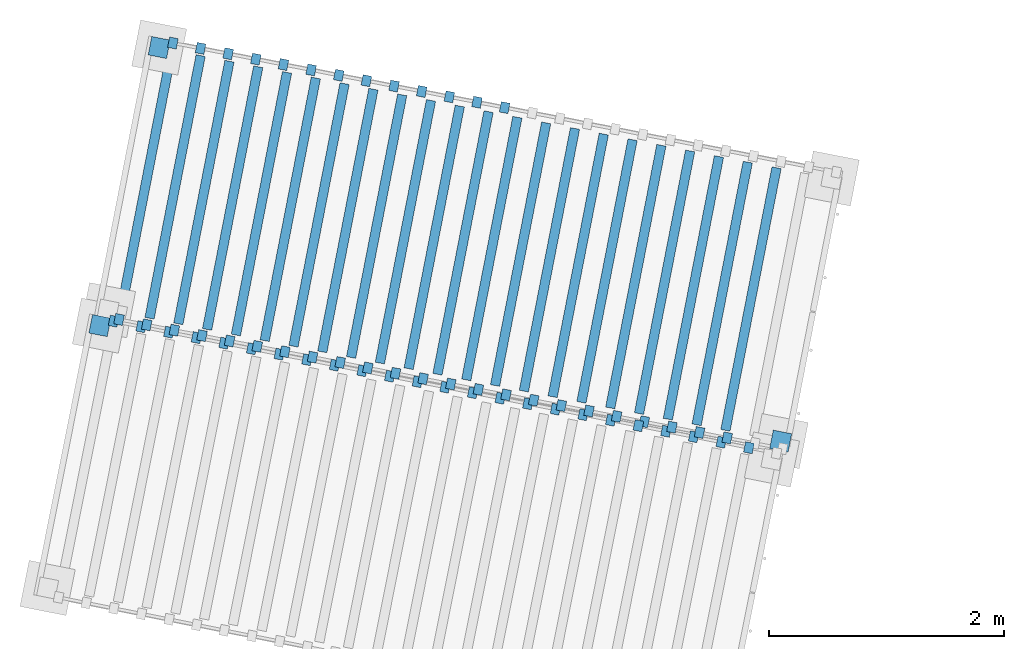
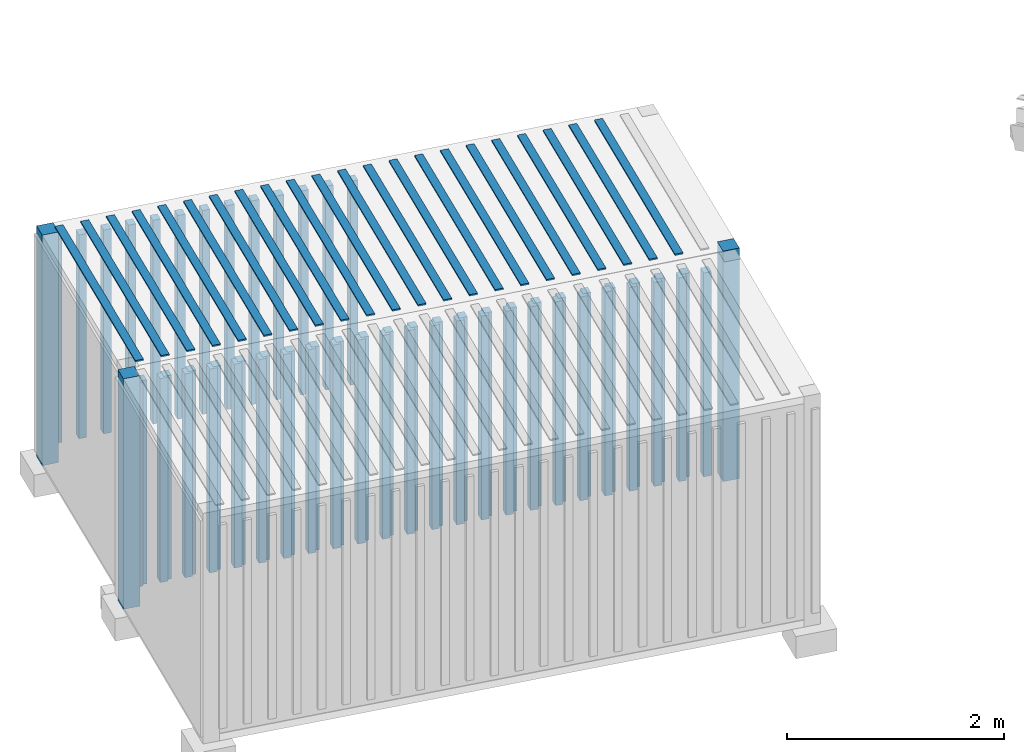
# One storey, part 82 of 131: 85 members, 2 elements without a shape of their own.
"""IFC4 building model written with IfcOpenShell, lengths in metres."""

from ifc_helpers import new_model, si_unit, direction, frame, origin_with_axes, place, context, subcontext, project, spatial, polyline, outline, extrude, material, element, aggregate, save


model = new_model("IFC4")

# Units and contexts
model_context = context("Model", 3, precision=1e-05, world=origin_with_axes(), true_north=direction((0.0, 1.0)))
body_context = subcontext(model_context, "Body", "Model", "MODEL_VIEW")
ifc_project = project(units=[si_unit("VOLUMEUNIT", "CUBIC_METRE"), si_unit("LENGTHUNIT", "METRE"), si_unit("AREAUNIT", "SQUARE_METRE")], contexts=[model_context])

# Site, building, storey
site_placement = place(None, origin_with_axes())
site = spatial("IfcSite", under=ifc_project, at=site_placement, Name="Lares · Rua das Mercês · artigo 4771")
building_placement = place(site_placement, frame((15.0, 9.7, 14.65), z_axis=(0.0, 0.0, 1.0), x_axis=(0.989015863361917, -0.147809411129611, 0.0)))
building = spatial("IfcBuilding", under=site, at=building_placement, Name="Casa Sobreposta")
storey_placement = place(building_placement, origin_with_axes())
storey = spatial("IfcBuildingStorey", under=building, at=storey_placement, Name="00 · Habitação e estacionamento", Elevation=14.65)

# Assembly, members
assembly_1_placement = place(storey_placement, frame((-14.4335953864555, 9.04888612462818, 0.0), z_axis=(0.0, 0.0, 1.0), x_axis=(0.999032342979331, -0.0439815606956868, 0.0)))
assembly_1 = element("IfcElementAssembly", 1, at=assembly_1_placement, inside=storey, Name="Contentor existente 1 · 6 m", ObjectType="EXISTING_SHIPPING_CONTAINER", PredefinedType="USERDEFINED")
ifc_material_1 = material(Name="Contentor · pintura 1", Category="steel")
member_1_placement = place(assembly_1_placement, frame((0.0, 0.0, -1.3), z_axis=(0.0, 0.0, 1.0), x_axis=(1.0, 0.0, 0.0)))
member_1 = element("IfcMember", 2, at=member_1_placement, material=ifc_material_1, Name="Contentor · canto", context=body_context, shape_type="SweptSolid", body=[
    extrude(outline(polyline([(0.16, 2.28), (0.16, 2.44), (0.0, 2.44), (0.0, 2.28), (0.16, 2.28)])), origin_with_axes(), (0.0, 0.0, 1.0), 2.59),
])
member_2_placement = place(assembly_1_placement, frame((0.0, 0.0, -1.3), z_axis=(0.0, 0.0, 1.0), x_axis=(1.0, 0.0, 0.0)))
member_2 = element("IfcMember", 3, at=member_2_placement, material=ifc_material_1, Name="Contentor · canto", context=body_context, shape_type="SweptSolid", body=[
    extrude(outline(polyline([(6.0, 0.0), (6.0, 0.16), (5.84, 0.16), (5.84, 0.0), (6.0, 0.0)])), origin_with_axes(), (0.0, 0.0, 1.0), 2.59),
])
member_3_placement = place(assembly_1_placement, frame((0.0, 0.0, -1.15), z_axis=(0.0, 0.0, 1.0), x_axis=(1.0, 0.0, 0.0)))
member_3 = element("IfcMember", 4, at=member_3_placement, material=ifc_material_1, Name="Contentor · nervura lateral", context=body_context, shape_type="SweptSolid", body=[
    extrude(outline(polyline([(0.225, -0.025), (0.225, 0.065), (0.15, 0.065), (0.15, -0.025), (0.225, -0.025)])), origin_with_axes(), (0.0, 0.0, 1.0), 2.29),
])
member_4_placement = place(assembly_1_placement, frame((0.0, 0.0, -1.15), z_axis=(0.0, 0.0, 1.0), x_axis=(1.0, 0.0, 0.0)))
member_4 = element("IfcMember", 5, at=member_4_placement, material=ifc_material_1, Name="Contentor · nervura lateral", context=body_context, shape_type="SweptSolid", body=[
    extrude(outline(polyline([(0.465, -0.025), (0.465, 0.065), (0.39, 0.065), (0.39, -0.025), (0.465, -0.025)])), origin_with_axes(), (0.0, 0.0, 1.0), 2.29),
])
member_5_placement = place(assembly_1_placement, frame((0.0, 0.0, -1.15), z_axis=(0.0, 0.0, 1.0), x_axis=(1.0, 0.0, 0.0)))
member_5 = element("IfcMember", 6, at=member_5_placement, material=ifc_material_1, Name="Contentor · nervura lateral", context=body_context, shape_type="SweptSolid", body=[
    extrude(outline(polyline([(0.705, -0.025), (0.705, 0.065), (0.63, 0.065), (0.63, -0.025), (0.705, -0.025)])), origin_with_axes(), (0.0, 0.0, 1.0), 2.29),
])
member_6_placement = place(assembly_1_placement, frame((0.0, 0.0, -1.15), z_axis=(0.0, 0.0, 1.0), x_axis=(1.0, 0.0, 0.0)))
member_6 = element("IfcMember", 7, at=member_6_placement, material=ifc_material_1, Name="Contentor · nervura lateral", context=body_context, shape_type="SweptSolid", body=[
    extrude(outline(polyline([(0.945, -0.025), (0.945, 0.065), (0.87, 0.065), (0.87, -0.025), (0.945, -0.025)])), origin_with_axes(), (0.0, 0.0, 1.0), 2.29),
])
member_7_placement = place(assembly_1_placement, frame((0.0, 0.0, -1.15), z_axis=(0.0, 0.0, 1.0), x_axis=(1.0, 0.0, 0.0)))
member_7 = element("IfcMember", 8, at=member_7_placement, material=ifc_material_1, Name="Contentor · nervura lateral", context=body_context, shape_type="SweptSolid", body=[
    extrude(outline(polyline([(1.185, -0.025), (1.185, 0.065), (1.11, 0.065), (1.11, -0.025), (1.185, -0.025)])), origin_with_axes(), (0.0, 0.0, 1.0), 2.29),
])
member_8_placement = place(assembly_1_placement, frame((0.0, 0.0, -1.15), z_axis=(0.0, 0.0, 1.0), x_axis=(1.0, 0.0, 0.0)))
member_8 = element("IfcMember", 9, at=member_8_placement, material=ifc_material_1, Name="Contentor · nervura lateral", context=body_context, shape_type="SweptSolid", body=[
    extrude(outline(polyline([(1.425, -0.025), (1.425, 0.065), (1.35, 0.065), (1.35, -0.025), (1.425, -0.025)])), origin_with_axes(), (0.0, 0.0, 1.0), 2.29),
])
member_9_placement = place(assembly_1_placement, frame((0.0, 0.0, -1.15), z_axis=(0.0, 0.0, 1.0), x_axis=(1.0, 0.0, 0.0)))
member_9 = element("IfcMember", 10, at=member_9_placement, material=ifc_material_1, Name="Contentor · nervura lateral", context=body_context, shape_type="SweptSolid", body=[
    extrude(outline(polyline([(1.665, -0.025), (1.665, 0.065), (1.59, 0.065), (1.59, -0.025), (1.665, -0.025)])), origin_with_axes(), (0.0, 0.0, 1.0), 2.29),
])
member_10_placement = place(assembly_1_placement, frame((0.0, 0.0, -1.15), z_axis=(0.0, 0.0, 1.0), x_axis=(1.0, 0.0, 0.0)))
member_10 = element("IfcMember", 11, at=member_10_placement, material=ifc_material_1, Name="Contentor · nervura lateral", context=body_context, shape_type="SweptSolid", body=[
    extrude(outline(polyline([(1.905, -0.025), (1.905, 0.065), (1.83, 0.065), (1.83, -0.025), (1.905, -0.025)])), origin_with_axes(), (0.0, 0.0, 1.0), 2.29),
])
member_11_placement = place(assembly_1_placement, frame((0.0, 0.0, -1.15), z_axis=(0.0, 0.0, 1.0), x_axis=(1.0, 0.0, 0.0)))
member_11 = element("IfcMember", 12, at=member_11_placement, material=ifc_material_1, Name="Contentor · nervura lateral", context=body_context, shape_type="SweptSolid", body=[
    extrude(outline(polyline([(2.145, -0.025), (2.145, 0.065), (2.07, 0.065), (2.07, -0.025), (2.145, -0.025)])), origin_with_axes(), (0.0, 0.0, 1.0), 2.29),
])
member_12_placement = place(assembly_1_placement, frame((0.0, 0.0, -1.15), z_axis=(0.0, 0.0, 1.0), x_axis=(1.0, 0.0, 0.0)))
member_12 = element("IfcMember", 13, at=member_12_placement, material=ifc_material_1, Name="Contentor · nervura lateral", context=body_context, shape_type="SweptSolid", body=[
    extrude(outline(polyline([(2.385, -0.025), (2.385, 0.065), (2.31, 0.065), (2.31, -0.025), (2.385, -0.025)])), origin_with_axes(), (0.0, 0.0, 1.0), 2.29),
])
member_13_placement = place(assembly_1_placement, frame((0.0, 0.0, -1.15), z_axis=(0.0, 0.0, 1.0), x_axis=(1.0, 0.0, 0.0)))
member_13 = element("IfcMember", 14, at=member_13_placement, material=ifc_material_1, Name="Contentor · nervura lateral", context=body_context, shape_type="SweptSolid", body=[
    extrude(outline(polyline([(2.625, -0.025), (2.625, 0.065), (2.55, 0.065), (2.55, -0.025), (2.625, -0.025)])), origin_with_axes(), (0.0, 0.0, 1.0), 2.29),
])
member_14_placement = place(assembly_1_placement, frame((0.0, 0.0, -1.15), z_axis=(0.0, 0.0, 1.0), x_axis=(1.0, 0.0, 0.0)))
member_14 = element("IfcMember", 15, at=member_14_placement, material=ifc_material_1, Name="Contentor · nervura lateral", context=body_context, shape_type="SweptSolid", body=[
    extrude(outline(polyline([(2.865, -0.025), (2.865, 0.065), (2.79, 0.065), (2.79, -0.025), (2.865, -0.025)])), origin_with_axes(), (0.0, 0.0, 1.0), 2.29),
])
member_15_placement = place(assembly_1_placement, frame((0.0, 0.0, -1.15), z_axis=(0.0, 0.0, 1.0), x_axis=(1.0, 0.0, 0.0)))
member_15 = element("IfcMember", 16, at=member_15_placement, material=ifc_material_1, Name="Contentor · nervura lateral", context=body_context, shape_type="SweptSolid", body=[
    extrude(outline(polyline([(3.105, -0.025), (3.105, 0.065), (3.03, 0.065), (3.03, -0.025), (3.105, -0.025)])), origin_with_axes(), (0.0, 0.0, 1.0), 2.29),
])
member_16_placement = place(assembly_1_placement, frame((0.0, 0.0, -1.15), z_axis=(0.0, 0.0, 1.0), x_axis=(1.0, 0.0, 0.0)))
member_16 = element("IfcMember", 17, at=member_16_placement, material=ifc_material_1, Name="Contentor · nervura lateral", context=body_context, shape_type="SweptSolid", body=[
    extrude(outline(polyline([(3.345, -0.025), (3.345, 0.065), (3.27, 0.065), (3.27, -0.025), (3.345, -0.025)])), origin_with_axes(), (0.0, 0.0, 1.0), 2.29),
])
member_17_placement = place(assembly_1_placement, frame((0.0, 0.0, -1.15), z_axis=(0.0, 0.0, 1.0), x_axis=(1.0, 0.0, 0.0)))
member_17 = element("IfcMember", 18, at=member_17_placement, material=ifc_material_1, Name="Contentor · nervura lateral", context=body_context, shape_type="SweptSolid", body=[
    extrude(outline(polyline([(3.585, -0.025), (3.585, 0.065), (3.51, 0.065), (3.51, -0.025), (3.585, -0.025)])), origin_with_axes(), (0.0, 0.0, 1.0), 2.29),
])
member_18_placement = place(assembly_1_placement, frame((0.0, 0.0, -1.15), z_axis=(0.0, 0.0, 1.0), x_axis=(1.0, 0.0, 0.0)))
member_18 = element("IfcMember", 19, at=member_18_placement, material=ifc_material_1, Name="Contentor · nervura lateral", context=body_context, shape_type="SweptSolid", body=[
    extrude(outline(polyline([(3.825, -0.025), (3.825, 0.065), (3.75, 0.065), (3.75, -0.025), (3.825, -0.025)])), origin_with_axes(), (0.0, 0.0, 1.0), 2.29),
])
member_19_placement = place(assembly_1_placement, frame((0.0, 0.0, -1.15), z_axis=(0.0, 0.0, 1.0), x_axis=(1.0, 0.0, 0.0)))
member_19 = element("IfcMember", 20, at=member_19_placement, material=ifc_material_1, Name="Contentor · nervura lateral", context=body_context, shape_type="SweptSolid", body=[
    extrude(outline(polyline([(4.065, -0.025), (4.065, 0.065), (3.99, 0.065), (3.99, -0.025), (4.065, -0.025)])), origin_with_axes(), (0.0, 0.0, 1.0), 2.29),
])
member_20_placement = place(assembly_1_placement, frame((0.0, 0.0, -1.15), z_axis=(0.0, 0.0, 1.0), x_axis=(1.0, 0.0, 0.0)))
member_20 = element("IfcMember", 21, at=member_20_placement, material=ifc_material_1, Name="Contentor · nervura lateral", context=body_context, shape_type="SweptSolid", body=[
    extrude(outline(polyline([(4.305, -0.025), (4.305, 0.065), (4.23, 0.065), (4.23, -0.025), (4.305, -0.025)])), origin_with_axes(), (0.0, 0.0, 1.0), 2.29),
])
member_21_placement = place(assembly_1_placement, frame((0.0, 0.0, -1.15), z_axis=(0.0, 0.0, 1.0), x_axis=(1.0, 0.0, 0.0)))
member_21 = element("IfcMember", 22, at=member_21_placement, material=ifc_material_1, Name="Contentor · nervura lateral", context=body_context, shape_type="SweptSolid", body=[
    extrude(outline(polyline([(4.545, -0.025), (4.545, 0.065), (4.47, 0.065), (4.47, -0.025), (4.545, -0.025)])), origin_with_axes(), (0.0, 0.0, 1.0), 2.29),
])
member_22_placement = place(assembly_1_placement, frame((0.0, 0.0, -1.15), z_axis=(0.0, 0.0, 1.0), x_axis=(1.0, 0.0, 0.0)))
member_22 = element("IfcMember", 23, at=member_22_placement, material=ifc_material_1, Name="Contentor · nervura lateral", context=body_context, shape_type="SweptSolid", body=[
    extrude(outline(polyline([(4.785, -0.025), (4.785, 0.065), (4.71, 0.065), (4.71, -0.025), (4.785, -0.025)])), origin_with_axes(), (0.0, 0.0, 1.0), 2.29),
])
member_23_placement = place(assembly_1_placement, frame((0.0, 0.0, -1.15), z_axis=(0.0, 0.0, 1.0), x_axis=(1.0, 0.0, 0.0)))
member_23 = element("IfcMember", 24, at=member_23_placement, material=ifc_material_1, Name="Contentor · nervura lateral", context=body_context, shape_type="SweptSolid", body=[
    extrude(outline(polyline([(5.025, -0.025), (5.025, 0.065), (4.95, 0.065), (4.95, -0.025), (5.025, -0.025)])), origin_with_axes(), (0.0, 0.0, 1.0), 2.29),
])
member_24_placement = place(assembly_1_placement, frame((0.0, 0.0, -1.15), z_axis=(0.0, 0.0, 1.0), x_axis=(1.0, 0.0, 0.0)))
member_24 = element("IfcMember", 25, at=member_24_placement, material=ifc_material_1, Name="Contentor · nervura lateral", context=body_context, shape_type="SweptSolid", body=[
    extrude(outline(polyline([(5.265, -0.025), (5.265, 0.065), (5.19, 0.065), (5.19, -0.025), (5.265, -0.025)])), origin_with_axes(), (0.0, 0.0, 1.0), 2.29),
])
member_25_placement = place(assembly_1_placement, frame((0.0, 0.0, -1.15), z_axis=(0.0, 0.0, 1.0), x_axis=(1.0, 0.0, 0.0)))
member_25 = element("IfcMember", 26, at=member_25_placement, material=ifc_material_1, Name="Contentor · nervura lateral", context=body_context, shape_type="SweptSolid", body=[
    extrude(outline(polyline([(5.505, -0.025), (5.505, 0.065), (5.43, 0.065), (5.43, -0.025), (5.505, -0.025)])), origin_with_axes(), (0.0, 0.0, 1.0), 2.29),
])
member_26_placement = place(assembly_1_placement, frame((0.0, 0.0, -1.15), z_axis=(0.0, 0.0, 1.0), x_axis=(1.0, 0.0, 0.0)))
member_26 = element("IfcMember", 27, at=member_26_placement, material=ifc_material_1, Name="Contentor · nervura lateral", context=body_context, shape_type="SweptSolid", body=[
    extrude(outline(polyline([(0.225, 2.375), (0.225, 2.465), (0.15, 2.465), (0.15, 2.375), (0.225, 2.375)])), origin_with_axes(), (0.0, 0.0, 1.0), 2.29),
])
member_27_placement = place(assembly_1_placement, frame((0.0, 0.0, -1.15), z_axis=(0.0, 0.0, 1.0), x_axis=(1.0, 0.0, 0.0)))
member_27 = element("IfcMember", 28, at=member_27_placement, material=ifc_material_1, Name="Contentor · nervura lateral", context=body_context, shape_type="SweptSolid", body=[
    extrude(outline(polyline([(0.465, 2.375), (0.465, 2.465), (0.39, 2.465), (0.39, 2.375), (0.465, 2.375)])), origin_with_axes(), (0.0, 0.0, 1.0), 2.29),
])
member_28_placement = place(assembly_1_placement, frame((0.0, 0.0, -1.15), z_axis=(0.0, 0.0, 1.0), x_axis=(1.0, 0.0, 0.0)))
member_28 = element("IfcMember", 29, at=member_28_placement, material=ifc_material_1, Name="Contentor · nervura lateral", context=body_context, shape_type="SweptSolid", body=[
    extrude(outline(polyline([(0.705, 2.375), (0.705, 2.465), (0.63, 2.465), (0.63, 2.375), (0.705, 2.375)])), origin_with_axes(), (0.0, 0.0, 1.0), 2.29),
])
member_29_placement = place(assembly_1_placement, frame((0.0, 0.0, -1.15), z_axis=(0.0, 0.0, 1.0), x_axis=(1.0, 0.0, 0.0)))
member_29 = element("IfcMember", 30, at=member_29_placement, material=ifc_material_1, Name="Contentor · nervura lateral", context=body_context, shape_type="SweptSolid", body=[
    extrude(outline(polyline([(0.945, 2.375), (0.945, 2.465), (0.87, 2.465), (0.87, 2.375), (0.945, 2.375)])), origin_with_axes(), (0.0, 0.0, 1.0), 2.29),
])
member_30_placement = place(assembly_1_placement, frame((0.0, 0.0, -1.15), z_axis=(0.0, 0.0, 1.0), x_axis=(1.0, 0.0, 0.0)))
member_30 = element("IfcMember", 31, at=member_30_placement, material=ifc_material_1, Name="Contentor · nervura lateral", context=body_context, shape_type="SweptSolid", body=[
    extrude(outline(polyline([(1.185, 2.375), (1.185, 2.465), (1.11, 2.465), (1.11, 2.375), (1.185, 2.375)])), origin_with_axes(), (0.0, 0.0, 1.0), 2.29),
])
member_31_placement = place(assembly_1_placement, frame((0.0, 0.0, -1.15), z_axis=(0.0, 0.0, 1.0), x_axis=(1.0, 0.0, 0.0)))
member_31 = element("IfcMember", 32, at=member_31_placement, material=ifc_material_1, Name="Contentor · nervura lateral", context=body_context, shape_type="SweptSolid", body=[
    extrude(outline(polyline([(1.425, 2.375), (1.425, 2.465), (1.35, 2.465), (1.35, 2.375), (1.425, 2.375)])), origin_with_axes(), (0.0, 0.0, 1.0), 2.29),
])
member_32_placement = place(assembly_1_placement, frame((0.0, 0.0, -1.15), z_axis=(0.0, 0.0, 1.0), x_axis=(1.0, 0.0, 0.0)))
member_32 = element("IfcMember", 33, at=member_32_placement, material=ifc_material_1, Name="Contentor · nervura lateral", context=body_context, shape_type="SweptSolid", body=[
    extrude(outline(polyline([(1.665, 2.375), (1.665, 2.465), (1.59, 2.465), (1.59, 2.375), (1.665, 2.375)])), origin_with_axes(), (0.0, 0.0, 1.0), 2.29),
])
member_33_placement = place(assembly_1_placement, frame((0.0, 0.0, -1.15), z_axis=(0.0, 0.0, 1.0), x_axis=(1.0, 0.0, 0.0)))
member_33 = element("IfcMember", 34, at=member_33_placement, material=ifc_material_1, Name="Contentor · nervura lateral", context=body_context, shape_type="SweptSolid", body=[
    extrude(outline(polyline([(1.905, 2.375), (1.905, 2.465), (1.83, 2.465), (1.83, 2.375), (1.905, 2.375)])), origin_with_axes(), (0.0, 0.0, 1.0), 2.29),
])
member_34_placement = place(assembly_1_placement, frame((0.0, 0.0, -1.15), z_axis=(0.0, 0.0, 1.0), x_axis=(1.0, 0.0, 0.0)))
member_34 = element("IfcMember", 35, at=member_34_placement, material=ifc_material_1, Name="Contentor · nervura lateral", context=body_context, shape_type="SweptSolid", body=[
    extrude(outline(polyline([(2.145, 2.375), (2.145, 2.465), (2.07, 2.465), (2.07, 2.375), (2.145, 2.375)])), origin_with_axes(), (0.0, 0.0, 1.0), 2.29),
])
member_35_placement = place(assembly_1_placement, frame((0.0, 0.0, -1.15), z_axis=(0.0, 0.0, 1.0), x_axis=(1.0, 0.0, 0.0)))
member_35 = element("IfcMember", 36, at=member_35_placement, material=ifc_material_1, Name="Contentor · nervura lateral", context=body_context, shape_type="SweptSolid", body=[
    extrude(outline(polyline([(2.385, 2.375), (2.385, 2.465), (2.31, 2.465), (2.31, 2.375), (2.385, 2.375)])), origin_with_axes(), (0.0, 0.0, 1.0), 2.29),
])
member_36_placement = place(assembly_1_placement, frame((0.0, 0.0, -1.15), z_axis=(0.0, 0.0, 1.0), x_axis=(1.0, 0.0, 0.0)))
member_36 = element("IfcMember", 37, at=member_36_placement, material=ifc_material_1, Name="Contentor · nervura lateral", context=body_context, shape_type="SweptSolid", body=[
    extrude(outline(polyline([(2.625, 2.375), (2.625, 2.465), (2.55, 2.465), (2.55, 2.375), (2.625, 2.375)])), origin_with_axes(), (0.0, 0.0, 1.0), 2.29),
])
member_37_placement = place(assembly_1_placement, frame((0.0, 0.0, -1.15), z_axis=(0.0, 0.0, 1.0), x_axis=(1.0, 0.0, 0.0)))
member_37 = element("IfcMember", 38, at=member_37_placement, material=ifc_material_1, Name="Contentor · nervura lateral", context=body_context, shape_type="SweptSolid", body=[
    extrude(outline(polyline([(2.865, 2.375), (2.865, 2.465), (2.79, 2.465), (2.79, 2.375), (2.865, 2.375)])), origin_with_axes(), (0.0, 0.0, 1.0), 2.29),
])
member_38_placement = place(assembly_1_placement, frame((0.0, 0.0, -1.15), z_axis=(0.0, 0.0, 1.0), x_axis=(1.0, 0.0, 0.0)))
member_38 = element("IfcMember", 39, at=member_38_placement, material=ifc_material_1, Name="Contentor · nervura lateral", context=body_context, shape_type="SweptSolid", body=[
    extrude(outline(polyline([(3.105, 2.375), (3.105, 2.465), (3.03, 2.465), (3.03, 2.375), (3.105, 2.375)])), origin_with_axes(), (0.0, 0.0, 1.0), 2.29),
])
member_39_placement = place(assembly_1_placement, frame((0.0, 0.0, 1.285), z_axis=(0.0, 0.0, 1.0), x_axis=(1.0, 0.0, 0.0)))
member_39 = element("IfcMember", 40, at=member_39_placement, material=ifc_material_1, Name="Contentor · nervura cobertura", context=body_context, shape_type="SweptSolid", body=[
    extrude(outline(polyline([(0.23, 0.08), (0.23, 2.36), (0.15, 2.36), (0.15, 0.08), (0.23, 0.08)])), origin_with_axes(), (0.0, 0.0, 1.0), 0.018),
])
member_40_placement = place(assembly_1_placement, frame((0.0, 0.0, 1.285), z_axis=(0.0, 0.0, 1.0), x_axis=(1.0, 0.0, 0.0)))
member_40 = element("IfcMember", 41, at=member_40_placement, material=ifc_material_1, Name="Contentor · nervura cobertura", context=body_context, shape_type="SweptSolid", body=[
    extrude(outline(polyline([(0.48, 0.08), (0.48, 2.36), (0.4, 2.36), (0.4, 0.08), (0.48, 0.08)])), origin_with_axes(), (0.0, 0.0, 1.0), 0.018),
])
member_41_placement = place(assembly_1_placement, frame((0.0, 0.0, 1.285), z_axis=(0.0, 0.0, 1.0), x_axis=(1.0, 0.0, 0.0)))
member_41 = element("IfcMember", 42, at=member_41_placement, material=ifc_material_1, Name="Contentor · nervura cobertura", context=body_context, shape_type="SweptSolid", body=[
    extrude(outline(polyline([(0.73, 0.08), (0.73, 2.36), (0.65, 2.36), (0.65, 0.08), (0.73, 0.08)])), origin_with_axes(), (0.0, 0.0, 1.0), 0.018),
])
member_42_placement = place(assembly_1_placement, frame((0.0, 0.0, 1.285), z_axis=(0.0, 0.0, 1.0), x_axis=(1.0, 0.0, 0.0)))
member_42 = element("IfcMember", 43, at=member_42_placement, material=ifc_material_1, Name="Contentor · nervura cobertura", context=body_context, shape_type="SweptSolid", body=[
    extrude(outline(polyline([(0.98, 0.08), (0.98, 2.36), (0.9, 2.36), (0.9, 0.08), (0.98, 0.08)])), origin_with_axes(), (0.0, 0.0, 1.0), 0.018),
])
member_43_placement = place(assembly_1_placement, frame((0.0, 0.0, 1.285), z_axis=(0.0, 0.0, 1.0), x_axis=(1.0, 0.0, 0.0)))
member_43 = element("IfcMember", 44, at=member_43_placement, material=ifc_material_1, Name="Contentor · nervura cobertura", context=body_context, shape_type="SweptSolid", body=[
    extrude(outline(polyline([(1.23, 0.08), (1.23, 2.36), (1.15, 2.36), (1.15, 0.08), (1.23, 0.08)])), origin_with_axes(), (0.0, 0.0, 1.0), 0.018),
])
member_44_placement = place(assembly_1_placement, frame((0.0, 0.0, 1.285), z_axis=(0.0, 0.0, 1.0), x_axis=(1.0, 0.0, 0.0)))
member_44 = element("IfcMember", 45, at=member_44_placement, material=ifc_material_1, Name="Contentor · nervura cobertura", context=body_context, shape_type="SweptSolid", body=[
    extrude(outline(polyline([(1.48, 0.08), (1.48, 2.36), (1.4, 2.36), (1.4, 0.08), (1.48, 0.08)])), origin_with_axes(), (0.0, 0.0, 1.0), 0.018),
])
member_45_placement = place(assembly_1_placement, frame((0.0, 0.0, 1.285), z_axis=(0.0, 0.0, 1.0), x_axis=(1.0, 0.0, 0.0)))
member_45 = element("IfcMember", 46, at=member_45_placement, material=ifc_material_1, Name="Contentor · nervura cobertura", context=body_context, shape_type="SweptSolid", body=[
    extrude(outline(polyline([(1.73, 0.08), (1.73, 2.36), (1.65, 2.36), (1.65, 0.08), (1.73, 0.08)])), origin_with_axes(), (0.0, 0.0, 1.0), 0.018),
])
member_46_placement = place(assembly_1_placement, frame((0.0, 0.0, 1.285), z_axis=(0.0, 0.0, 1.0), x_axis=(1.0, 0.0, 0.0)))
member_46 = element("IfcMember", 47, at=member_46_placement, material=ifc_material_1, Name="Contentor · nervura cobertura", context=body_context, shape_type="SweptSolid", body=[
    extrude(outline(polyline([(1.98, 0.08), (1.98, 2.36), (1.9, 2.36), (1.9, 0.08), (1.98, 0.08)])), origin_with_axes(), (0.0, 0.0, 1.0), 0.018),
])
member_47_placement = place(assembly_1_placement, frame((0.0, 0.0, 1.285), z_axis=(0.0, 0.0, 1.0), x_axis=(1.0, 0.0, 0.0)))
member_47 = element("IfcMember", 48, at=member_47_placement, material=ifc_material_1, Name="Contentor · nervura cobertura", context=body_context, shape_type="SweptSolid", body=[
    extrude(outline(polyline([(2.23, 0.08), (2.23, 2.36), (2.15, 2.36), (2.15, 0.08), (2.23, 0.08)])), origin_with_axes(), (0.0, 0.0, 1.0), 0.018),
])
member_48_placement = place(assembly_1_placement, frame((0.0, 0.0, 1.285), z_axis=(0.0, 0.0, 1.0), x_axis=(1.0, 0.0, 0.0)))
member_48 = element("IfcMember", 49, at=member_48_placement, material=ifc_material_1, Name="Contentor · nervura cobertura", context=body_context, shape_type="SweptSolid", body=[
    extrude(outline(polyline([(2.48, 0.08), (2.48, 2.36), (2.4, 2.36), (2.4, 0.08), (2.48, 0.08)])), origin_with_axes(), (0.0, 0.0, 1.0), 0.018),
])
member_49_placement = place(assembly_1_placement, frame((0.0, 0.0, 1.285), z_axis=(0.0, 0.0, 1.0), x_axis=(1.0, 0.0, 0.0)))
member_49 = element("IfcMember", 50, at=member_49_placement, material=ifc_material_1, Name="Contentor · nervura cobertura", context=body_context, shape_type="SweptSolid", body=[
    extrude(outline(polyline([(2.73, 0.08), (2.73, 2.36), (2.65, 2.36), (2.65, 0.08), (2.73, 0.08)])), origin_with_axes(), (0.0, 0.0, 1.0), 0.018),
])
member_50_placement = place(assembly_1_placement, frame((0.0, 0.0, 1.285), z_axis=(0.0, 0.0, 1.0), x_axis=(1.0, 0.0, 0.0)))
member_50 = element("IfcMember", 51, at=member_50_placement, material=ifc_material_1, Name="Contentor · nervura cobertura", context=body_context, shape_type="SweptSolid", body=[
    extrude(outline(polyline([(2.98, 0.08), (2.98, 2.36), (2.9, 2.36), (2.9, 0.08), (2.98, 0.08)])), origin_with_axes(), (0.0, 0.0, 1.0), 0.018),
])
member_51_placement = place(assembly_1_placement, frame((0.0, 0.0, 1.285), z_axis=(0.0, 0.0, 1.0), x_axis=(1.0, 0.0, 0.0)))
member_51 = element("IfcMember", 52, at=member_51_placement, material=ifc_material_1, Name="Contentor · nervura cobertura", context=body_context, shape_type="SweptSolid", body=[
    extrude(outline(polyline([(3.23, 0.08), (3.23, 2.36), (3.15, 2.36), (3.15, 0.08), (3.23, 0.08)])), origin_with_axes(), (0.0, 0.0, 1.0), 0.018),
])
member_52_placement = place(assembly_1_placement, frame((0.0, 0.0, 1.285), z_axis=(0.0, 0.0, 1.0), x_axis=(1.0, 0.0, 0.0)))
member_52 = element("IfcMember", 53, at=member_52_placement, material=ifc_material_1, Name="Contentor · nervura cobertura", context=body_context, shape_type="SweptSolid", body=[
    extrude(outline(polyline([(3.48, 0.08), (3.48, 2.36), (3.4, 2.36), (3.4, 0.08), (3.48, 0.08)])), origin_with_axes(), (0.0, 0.0, 1.0), 0.018),
])
member_53_placement = place(assembly_1_placement, frame((0.0, 0.0, 1.285), z_axis=(0.0, 0.0, 1.0), x_axis=(1.0, 0.0, 0.0)))
member_53 = element("IfcMember", 54, at=member_53_placement, material=ifc_material_1, Name="Contentor · nervura cobertura", context=body_context, shape_type="SweptSolid", body=[
    extrude(outline(polyline([(3.73, 0.08), (3.73, 2.36), (3.65, 2.36), (3.65, 0.08), (3.73, 0.08)])), origin_with_axes(), (0.0, 0.0, 1.0), 0.018),
])
member_54_placement = place(assembly_1_placement, frame((0.0, 0.0, 1.285), z_axis=(0.0, 0.0, 1.0), x_axis=(1.0, 0.0, 0.0)))
member_54 = element("IfcMember", 55, at=member_54_placement, material=ifc_material_1, Name="Contentor · nervura cobertura", context=body_context, shape_type="SweptSolid", body=[
    extrude(outline(polyline([(3.98, 0.08), (3.98, 2.36), (3.9, 2.36), (3.9, 0.08), (3.98, 0.08)])), origin_with_axes(), (0.0, 0.0, 1.0), 0.018),
])
member_55_placement = place(assembly_1_placement, frame((0.0, 0.0, 1.285), z_axis=(0.0, 0.0, 1.0), x_axis=(1.0, 0.0, 0.0)))
member_55 = element("IfcMember", 56, at=member_55_placement, material=ifc_material_1, Name="Contentor · nervura cobertura", context=body_context, shape_type="SweptSolid", body=[
    extrude(outline(polyline([(4.23, 0.08), (4.23, 2.36), (4.15, 2.36), (4.15, 0.08), (4.23, 0.08)])), origin_with_axes(), (0.0, 0.0, 1.0), 0.018),
])
member_56_placement = place(assembly_1_placement, frame((0.0, 0.0, 1.285), z_axis=(0.0, 0.0, 1.0), x_axis=(1.0, 0.0, 0.0)))
member_56 = element("IfcMember", 57, at=member_56_placement, material=ifc_material_1, Name="Contentor · nervura cobertura", context=body_context, shape_type="SweptSolid", body=[
    extrude(outline(polyline([(4.48, 0.08), (4.48, 2.36), (4.4, 2.36), (4.4, 0.08), (4.48, 0.08)])), origin_with_axes(), (0.0, 0.0, 1.0), 0.018),
])
member_57_placement = place(assembly_1_placement, frame((0.0, 0.0, 1.285), z_axis=(0.0, 0.0, 1.0), x_axis=(1.0, 0.0, 0.0)))
member_57 = element("IfcMember", 58, at=member_57_placement, material=ifc_material_1, Name="Contentor · nervura cobertura", context=body_context, shape_type="SweptSolid", body=[
    extrude(outline(polyline([(4.73, 0.08), (4.73, 2.36), (4.65, 2.36), (4.65, 0.08), (4.73, 0.08)])), origin_with_axes(), (0.0, 0.0, 1.0), 0.018),
])
member_58_placement = place(assembly_1_placement, frame((0.0, 0.0, 1.285), z_axis=(0.0, 0.0, 1.0), x_axis=(1.0, 0.0, 0.0)))
member_58 = element("IfcMember", 59, at=member_58_placement, material=ifc_material_1, Name="Contentor · nervura cobertura", context=body_context, shape_type="SweptSolid", body=[
    extrude(outline(polyline([(4.98, 0.08), (4.98, 2.36), (4.9, 2.36), (4.9, 0.08), (4.98, 0.08)])), origin_with_axes(), (0.0, 0.0, 1.0), 0.018),
])
member_59_placement = place(assembly_1_placement, frame((0.0, 0.0, 1.285), z_axis=(0.0, 0.0, 1.0), x_axis=(1.0, 0.0, 0.0)))
member_59 = element("IfcMember", 60, at=member_59_placement, material=ifc_material_1, Name="Contentor · nervura cobertura", context=body_context, shape_type="SweptSolid", body=[
    extrude(outline(polyline([(5.23, 0.08), (5.23, 2.36), (5.15, 2.36), (5.15, 0.08), (5.23, 0.08)])), origin_with_axes(), (0.0, 0.0, 1.0), 0.018),
])
member_60_placement = place(assembly_1_placement, frame((0.0, 0.0, 1.285), z_axis=(0.0, 0.0, 1.0), x_axis=(1.0, 0.0, 0.0)))
member_60 = element("IfcMember", 61, at=member_60_placement, material=ifc_material_1, Name="Contentor · nervura cobertura", context=body_context, shape_type="SweptSolid", body=[
    extrude(outline(polyline([(5.48, 0.08), (5.48, 2.36), (5.4, 2.36), (5.4, 0.08), (5.48, 0.08)])), origin_with_axes(), (0.0, 0.0, 1.0), 0.018),
])
aggregate(assembly_1, [member_1, member_2, member_3, member_4, member_5, member_6, member_7, member_8, member_9, member_10, member_11, member_12, member_13, member_14, member_15, member_16, member_17, member_18, member_19, member_20, member_21, member_22, member_23, member_24, member_25, member_26, member_27, member_28, member_29, member_30, member_31, member_32, member_33, member_34, member_35, member_36, member_37, member_38, member_39, member_40, member_41, member_42, member_43, member_44, member_45, member_46, member_47, member_48, member_49, member_50, member_51, member_52, member_53, member_54, member_55, member_56, member_57, member_58, member_59, member_60])

assembly_2_placement = place(storey_placement, frame((-14.5932944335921, 6.63122214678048, 0.0), z_axis=(0.0, 0.0, 1.0), x_axis=(0.998832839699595, -0.0483007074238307, 0.0)))
assembly_2 = element("IfcElementAssembly", 62, at=assembly_2_placement, inside=storey, Name="Contentor existente 2 · 6 m", ObjectType="EXISTING_SHIPPING_CONTAINER", PredefinedType="USERDEFINED")
ifc_material_2 = material(Name="Contentor · pintura 2", Category="steel")
member_61_placement = place(assembly_2_placement, frame((0.0, 0.0, -1.3), z_axis=(0.0, 0.0, 1.0), x_axis=(1.0, 0.0, 0.0)))
member_61 = element("IfcMember", 63, at=member_61_placement, material=ifc_material_2, Name="Contentor · canto", context=body_context, shape_type="SweptSolid", body=[
    extrude(outline(polyline([(0.16, 2.28), (0.16, 2.44), (0.0, 2.44), (0.0, 2.28), (0.16, 2.28)])), origin_with_axes(), (0.0, 0.0, 1.0), 2.59),
])
member_62_placement = place(assembly_2_placement, frame((0.0, 0.0, -1.15), z_axis=(0.0, 0.0, 1.0), x_axis=(1.0, 0.0, 0.0)))
member_62 = element("IfcMember", 64, at=member_62_placement, material=ifc_material_2, Name="Contentor · nervura lateral", context=body_context, shape_type="SweptSolid", body=[
    extrude(outline(polyline([(0.225, 2.375), (0.225, 2.465), (0.15, 2.465), (0.15, 2.375), (0.225, 2.375)])), origin_with_axes(), (0.0, 0.0, 1.0), 2.29),
])
member_63_placement = place(assembly_2_placement, frame((0.0, 0.0, -1.15), z_axis=(0.0, 0.0, 1.0), x_axis=(1.0, 0.0, 0.0)))
member_63 = element("IfcMember", 65, at=member_63_placement, material=ifc_material_2, Name="Contentor · nervura lateral", context=body_context, shape_type="SweptSolid", body=[
    extrude(outline(polyline([(0.465, 2.375), (0.465, 2.465), (0.39, 2.465), (0.39, 2.375), (0.465, 2.375)])), origin_with_axes(), (0.0, 0.0, 1.0), 2.29),
])
member_64_placement = place(assembly_2_placement, frame((0.0, 0.0, -1.15), z_axis=(0.0, 0.0, 1.0), x_axis=(1.0, 0.0, 0.0)))
member_64 = element("IfcMember", 66, at=member_64_placement, material=ifc_material_2, Name="Contentor · nervura lateral", context=body_context, shape_type="SweptSolid", body=[
    extrude(outline(polyline([(0.705, 2.375), (0.705, 2.465), (0.63, 2.465), (0.63, 2.375), (0.705, 2.375)])), origin_with_axes(), (0.0, 0.0, 1.0), 2.29),
])
member_65_placement = place(assembly_2_placement, frame((0.0, 0.0, -1.15), z_axis=(0.0, 0.0, 1.0), x_axis=(1.0, 0.0, 0.0)))
member_65 = element("IfcMember", 67, at=member_65_placement, material=ifc_material_2, Name="Contentor · nervura lateral", context=body_context, shape_type="SweptSolid", body=[
    extrude(outline(polyline([(0.945, 2.375), (0.945, 2.465), (0.87, 2.465), (0.87, 2.375), (0.945, 2.375)])), origin_with_axes(), (0.0, 0.0, 1.0), 2.29),
])
member_66_placement = place(assembly_2_placement, frame((0.0, 0.0, -1.15), z_axis=(0.0, 0.0, 1.0), x_axis=(1.0, 0.0, 0.0)))
member_66 = element("IfcMember", 68, at=member_66_placement, material=ifc_material_2, Name="Contentor · nervura lateral", context=body_context, shape_type="SweptSolid", body=[
    extrude(outline(polyline([(1.185, 2.375), (1.185, 2.465), (1.11, 2.465), (1.11, 2.375), (1.185, 2.375)])), origin_with_axes(), (0.0, 0.0, 1.0), 2.29),
])
member_67_placement = place(assembly_2_placement, frame((0.0, 0.0, -1.15), z_axis=(0.0, 0.0, 1.0), x_axis=(1.0, 0.0, 0.0)))
member_67 = element("IfcMember", 69, at=member_67_placement, material=ifc_material_2, Name="Contentor · nervura lateral", context=body_context, shape_type="SweptSolid", body=[
    extrude(outline(polyline([(1.425, 2.375), (1.425, 2.465), (1.35, 2.465), (1.35, 2.375), (1.425, 2.375)])), origin_with_axes(), (0.0, 0.0, 1.0), 2.29),
])
member_68_placement = place(assembly_2_placement, frame((0.0, 0.0, -1.15), z_axis=(0.0, 0.0, 1.0), x_axis=(1.0, 0.0, 0.0)))
member_68 = element("IfcMember", 70, at=member_68_placement, material=ifc_material_2, Name="Contentor · nervura lateral", context=body_context, shape_type="SweptSolid", body=[
    extrude(outline(polyline([(1.665, 2.375), (1.665, 2.465), (1.59, 2.465), (1.59, 2.375), (1.665, 2.375)])), origin_with_axes(), (0.0, 0.0, 1.0), 2.29),
])
member_69_placement = place(assembly_2_placement, frame((0.0, 0.0, -1.15), z_axis=(0.0, 0.0, 1.0), x_axis=(1.0, 0.0, 0.0)))
member_69 = element("IfcMember", 71, at=member_69_placement, material=ifc_material_2, Name="Contentor · nervura lateral", context=body_context, shape_type="SweptSolid", body=[
    extrude(outline(polyline([(1.905, 2.375), (1.905, 2.465), (1.83, 2.465), (1.83, 2.375), (1.905, 2.375)])), origin_with_axes(), (0.0, 0.0, 1.0), 2.29),
])
member_70_placement = place(assembly_2_placement, frame((0.0, 0.0, -1.15), z_axis=(0.0, 0.0, 1.0), x_axis=(1.0, 0.0, 0.0)))
member_70 = element("IfcMember", 72, at=member_70_placement, material=ifc_material_2, Name="Contentor · nervura lateral", context=body_context, shape_type="SweptSolid", body=[
    extrude(outline(polyline([(2.145, 2.375), (2.145, 2.465), (2.07, 2.465), (2.07, 2.375), (2.145, 2.375)])), origin_with_axes(), (0.0, 0.0, 1.0), 2.29),
])
member_71_placement = place(assembly_2_placement, frame((0.0, 0.0, -1.15), z_axis=(0.0, 0.0, 1.0), x_axis=(1.0, 0.0, 0.0)))
member_71 = element("IfcMember", 73, at=member_71_placement, material=ifc_material_2, Name="Contentor · nervura lateral", context=body_context, shape_type="SweptSolid", body=[
    extrude(outline(polyline([(2.385, 2.375), (2.385, 2.465), (2.31, 2.465), (2.31, 2.375), (2.385, 2.375)])), origin_with_axes(), (0.0, 0.0, 1.0), 2.29),
])
member_72_placement = place(assembly_2_placement, frame((0.0, 0.0, -1.15), z_axis=(0.0, 0.0, 1.0), x_axis=(1.0, 0.0, 0.0)))
member_72 = element("IfcMember", 74, at=member_72_placement, material=ifc_material_2, Name="Contentor · nervura lateral", context=body_context, shape_type="SweptSolid", body=[
    extrude(outline(polyline([(2.625, 2.375), (2.625, 2.465), (2.55, 2.465), (2.55, 2.375), (2.625, 2.375)])), origin_with_axes(), (0.0, 0.0, 1.0), 2.29),
])
member_73_placement = place(assembly_2_placement, frame((0.0, 0.0, -1.15), z_axis=(0.0, 0.0, 1.0), x_axis=(1.0, 0.0, 0.0)))
member_73 = element("IfcMember", 75, at=member_73_placement, material=ifc_material_2, Name="Contentor · nervura lateral", context=body_context, shape_type="SweptSolid", body=[
    extrude(outline(polyline([(2.865, 2.375), (2.865, 2.465), (2.79, 2.465), (2.79, 2.375), (2.865, 2.375)])), origin_with_axes(), (0.0, 0.0, 1.0), 2.29),
])
member_74_placement = place(assembly_2_placement, frame((0.0, 0.0, -1.15), z_axis=(0.0, 0.0, 1.0), x_axis=(1.0, 0.0, 0.0)))
member_74 = element("IfcMember", 76, at=member_74_placement, material=ifc_material_2, Name="Contentor · nervura lateral", context=body_context, shape_type="SweptSolid", body=[
    extrude(outline(polyline([(3.105, 2.375), (3.105, 2.465), (3.03, 2.465), (3.03, 2.375), (3.105, 2.375)])), origin_with_axes(), (0.0, 0.0, 1.0), 2.29),
])
member_75_placement = place(assembly_2_placement, frame((0.0, 0.0, -1.15), z_axis=(0.0, 0.0, 1.0), x_axis=(1.0, 0.0, 0.0)))
member_75 = element("IfcMember", 77, at=member_75_placement, material=ifc_material_2, Name="Contentor · nervura lateral", context=body_context, shape_type="SweptSolid", body=[
    extrude(outline(polyline([(3.345, 2.375), (3.345, 2.465), (3.27, 2.465), (3.27, 2.375), (3.345, 2.375)])), origin_with_axes(), (0.0, 0.0, 1.0), 2.29),
])
member_76_placement = place(assembly_2_placement, frame((0.0, 0.0, -1.15), z_axis=(0.0, 0.0, 1.0), x_axis=(1.0, 0.0, 0.0)))
member_76 = element("IfcMember", 78, at=member_76_placement, material=ifc_material_2, Name="Contentor · nervura lateral", context=body_context, shape_type="SweptSolid", body=[
    extrude(outline(polyline([(3.585, 2.375), (3.585, 2.465), (3.51, 2.465), (3.51, 2.375), (3.585, 2.375)])), origin_with_axes(), (0.0, 0.0, 1.0), 2.29),
])
member_77_placement = place(assembly_2_placement, frame((0.0, 0.0, -1.15), z_axis=(0.0, 0.0, 1.0), x_axis=(1.0, 0.0, 0.0)))
member_77 = element("IfcMember", 79, at=member_77_placement, material=ifc_material_2, Name="Contentor · nervura lateral", context=body_context, shape_type="SweptSolid", body=[
    extrude(outline(polyline([(3.825, 2.375), (3.825, 2.465), (3.75, 2.465), (3.75, 2.375), (3.825, 2.375)])), origin_with_axes(), (0.0, 0.0, 1.0), 2.29),
])
member_78_placement = place(assembly_2_placement, frame((0.0, 0.0, -1.15), z_axis=(0.0, 0.0, 1.0), x_axis=(1.0, 0.0, 0.0)))
member_78 = element("IfcMember", 80, at=member_78_placement, material=ifc_material_2, Name="Contentor · nervura lateral", context=body_context, shape_type="SweptSolid", body=[
    extrude(outline(polyline([(4.065, 2.375), (4.065, 2.465), (3.99, 2.465), (3.99, 2.375), (4.065, 2.375)])), origin_with_axes(), (0.0, 0.0, 1.0), 2.29),
])
member_79_placement = place(assembly_2_placement, frame((0.0, 0.0, -1.15), z_axis=(0.0, 0.0, 1.0), x_axis=(1.0, 0.0, 0.0)))
member_79 = element("IfcMember", 81, at=member_79_placement, material=ifc_material_2, Name="Contentor · nervura lateral", context=body_context, shape_type="SweptSolid", body=[
    extrude(outline(polyline([(4.305, 2.375), (4.305, 2.465), (4.23, 2.465), (4.23, 2.375), (4.305, 2.375)])), origin_with_axes(), (0.0, 0.0, 1.0), 2.29),
])
member_80_placement = place(assembly_2_placement, frame((0.0, 0.0, -1.15), z_axis=(0.0, 0.0, 1.0), x_axis=(1.0, 0.0, 0.0)))
member_80 = element("IfcMember", 82, at=member_80_placement, material=ifc_material_2, Name="Contentor · nervura lateral", context=body_context, shape_type="SweptSolid", body=[
    extrude(outline(polyline([(4.545, 2.375), (4.545, 2.465), (4.47, 2.465), (4.47, 2.375), (4.545, 2.375)])), origin_with_axes(), (0.0, 0.0, 1.0), 2.29),
])
member_81_placement = place(assembly_2_placement, frame((0.0, 0.0, -1.15), z_axis=(0.0, 0.0, 1.0), x_axis=(1.0, 0.0, 0.0)))
member_81 = element("IfcMember", 83, at=member_81_placement, material=ifc_material_2, Name="Contentor · nervura lateral", context=body_context, shape_type="SweptSolid", body=[
    extrude(outline(polyline([(4.785, 2.375), (4.785, 2.465), (4.71, 2.465), (4.71, 2.375), (4.785, 2.375)])), origin_with_axes(), (0.0, 0.0, 1.0), 2.29),
])
member_82_placement = place(assembly_2_placement, frame((0.0, 0.0, -1.15), z_axis=(0.0, 0.0, 1.0), x_axis=(1.0, 0.0, 0.0)))
member_82 = element("IfcMember", 84, at=member_82_placement, material=ifc_material_2, Name="Contentor · nervura lateral", context=body_context, shape_type="SweptSolid", body=[
    extrude(outline(polyline([(5.025, 2.375), (5.025, 2.465), (4.95, 2.465), (4.95, 2.375), (5.025, 2.375)])), origin_with_axes(), (0.0, 0.0, 1.0), 2.29),
])
member_83_placement = place(assembly_2_placement, frame((0.0, 0.0, -1.15), z_axis=(0.0, 0.0, 1.0), x_axis=(1.0, 0.0, 0.0)))
member_83 = element("IfcMember", 85, at=member_83_placement, material=ifc_material_2, Name="Contentor · nervura lateral", context=body_context, shape_type="SweptSolid", body=[
    extrude(outline(polyline([(5.265, 2.375), (5.265, 2.465), (5.19, 2.465), (5.19, 2.375), (5.265, 2.375)])), origin_with_axes(), (0.0, 0.0, 1.0), 2.29),
])
member_84_placement = place(assembly_2_placement, frame((0.0, 0.0, -1.15), z_axis=(0.0, 0.0, 1.0), x_axis=(1.0, 0.0, 0.0)))
member_84 = element("IfcMember", 86, at=member_84_placement, material=ifc_material_2, Name="Contentor · nervura lateral", context=body_context, shape_type="SweptSolid", body=[
    extrude(outline(polyline([(5.505, 2.375), (5.505, 2.465), (5.43, 2.465), (5.43, 2.375), (5.505, 2.375)])), origin_with_axes(), (0.0, 0.0, 1.0), 2.29),
])
member_85_placement = place(assembly_2_placement, frame((0.0, 0.0, -1.15), z_axis=(0.0, 0.0, 1.0), x_axis=(1.0, 0.0, 0.0)))
member_85 = element("IfcMember", 87, at=member_85_placement, material=ifc_material_2, Name="Contentor · nervura lateral", context=body_context, shape_type="SweptSolid", body=[
    extrude(outline(polyline([(5.745, 2.375), (5.745, 2.465), (5.67, 2.465), (5.67, 2.375), (5.745, 2.375)])), origin_with_axes(), (0.0, 0.0, 1.0), 2.29),
])
aggregate(assembly_2, [member_61, member_62, member_63, member_64, member_65, member_66, member_67, member_68, member_69, member_70, member_71, member_72, member_73, member_74, member_75, member_76, member_77, member_78, member_79, member_80, member_81, member_82, member_83, member_84, member_85])

save(model, "model.ifc")
